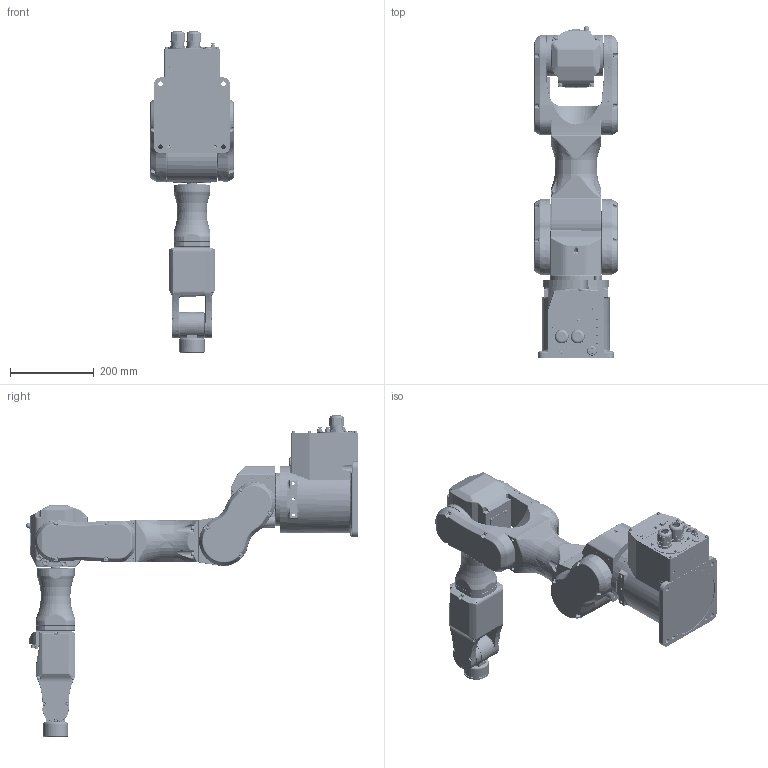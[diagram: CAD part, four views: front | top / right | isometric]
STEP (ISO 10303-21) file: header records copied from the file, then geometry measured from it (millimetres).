
FILE_DESCRIPTION((''),'2;1');
FILE_NAME('C4L-A900S_ASM','2012-09-07T',('0179539'),(''),'PRO/ENGINEER BY PARAMETRIC TECHNOLOGY CORPORATION, 2007390','PRO/ENGINEER BY PARAMETRIC TECHNOLOGY CORPORATION, 2007390','');
FILE_SCHEMA(('AUTOMOTIVE_DESIGN_CC2 { 1 2 10303 214 -1 1 5 2 }'));
Products named in the file (8): C4L_BASE; C4L_J1; C4L_J2; C4L_J3; C4L_J5; C4L_J6; C4L_J4S; C4L-A900S_ASM
Assembly tree (7 placements, depth 2):
  C4L-A900S_ASM
    C4L_BASE
    C4L_J1
    C4L_J2
    C4L_J3
    C4L_J5
    C4L_J6
    C4L_J4S
Bounding box: 198 x 790.5 x 764.5 mm (x, y, z)
Volume: 10152630.7 mm3; surface area: 1450789.7 mm2
Topology: 7 solids, 13 shells, 5363 faces, 12677 edges, 7614 vertices
Faces by surface type: cylinder 1793, plane 1743, bspline 738, torus 490, cone 441, sphere 153, revolution 4, extrusion 1
Entity records: 278737 total; most frequent: CARTESIAN_POINT 120964, ORIENTED_EDGE 25078, DIRECTION 24777, EDGE_CURVE 12539, AXIS2_PLACEMENT_3D 9695, VERTEX_POINT 7614, EDGE_LOOP 5933, FILL_AREA_STYLE_COLOUR 5449
